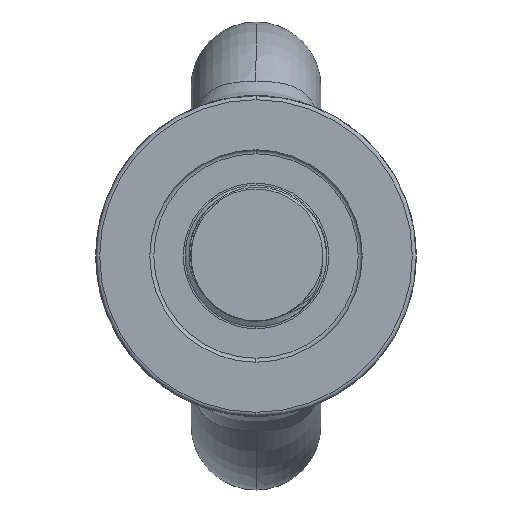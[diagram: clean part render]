
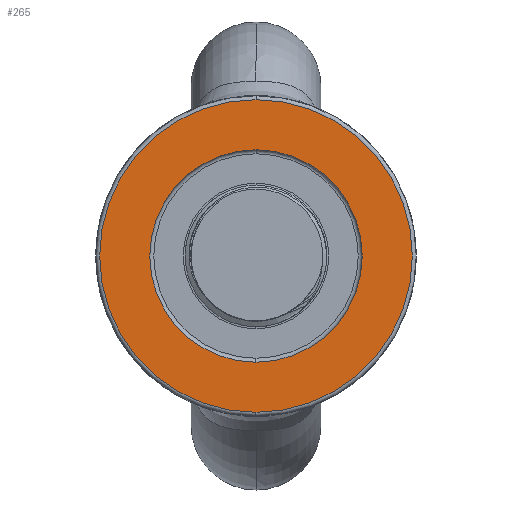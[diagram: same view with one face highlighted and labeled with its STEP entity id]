
A CAD part, left-side view. The second image highlights one B-rep face of the part: STEP entity #265.
In plain terms, the highlighted planar face has unit normal (-1, 0, 0).
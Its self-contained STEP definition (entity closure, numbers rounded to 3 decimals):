
#99 = CIRCLE ( 'NONE', #16171, 54. ) ;
#120 = CIRCLE ( 'NONE', #14871, 54. ) ;
#124 = CIRCLE ( 'NONE', #14870, 79.5 ) ;
#212 = CIRCLE ( 'NONE', #14889, 79.5 ) ;
#265 = ADVANCED_FACE ( 'NONE', ( #16588, #16582 ), #15269, .F. ) ;
#12722 = CARTESIAN_POINT ( 'NONE',  ( 0., 0., 0. ) ) ;
#12723 = DIRECTION ( 'NONE',  ( -1., 0., 0. ) ) ;
#12724 = DIRECTION ( 'NONE',  ( 0., 0., 1. ) ) ;
#13447 = CARTESIAN_POINT ( 'NONE',  ( 0., 0., 0. ) ) ;
#13448 = DIRECTION ( 'NONE',  ( -1., 0., 0. ) ) ;
#13449 = DIRECTION ( 'NONE',  ( 0., 0., 1. ) ) ;
#13450 = CARTESIAN_POINT ( 'NONE',  ( 0., 0., 0. ) ) ;
#13451 = DIRECTION ( 'NONE',  ( -1., 0., 0. ) ) ;
#13452 = DIRECTION ( 'NONE',  ( 0., 0., 1. ) ) ;
#13664 = CARTESIAN_POINT ( 'NONE',  ( 0., 0., -54. ) ) ;
#13778 = CARTESIAN_POINT ( 'NONE',  ( 0., 0., 54. ) ) ;
#13792 = CARTESIAN_POINT ( 'NONE',  ( 0., 0., -79.5 ) ) ;
#13845 = CARTESIAN_POINT ( 'NONE',  ( 0., 0., 79.5 ) ) ;
#14654 = CARTESIAN_POINT ( 'NONE',  ( 0., 0., 0. ) ) ;
#14655 = DIRECTION ( 'NONE',  ( -1., 0., 0. ) ) ;
#14656 = DIRECTION ( 'NONE',  ( 0., 0., 1. ) ) ;
#14870 = AXIS2_PLACEMENT_3D ( 'NONE', #13447, #13448, #13449 ) ;
#14871 = AXIS2_PLACEMENT_3D ( 'NONE', #13450, #13451, #13452 ) ;
#14889 = AXIS2_PLACEMENT_3D ( 'NONE', #14654, #14655, #14656 ) ;
#15123 = EDGE_LOOP ( 'NONE', ( #16223, #16227 ) ) ;
#15265 = DIRECTION ( 'NONE',  ( 0., 0., -1. ) ) ;
#15269 = PLANE ( 'NONE',  #16137 ) ;
#15273 = DIRECTION ( 'NONE',  ( 1., 0., 0. ) ) ;
#15394 = CARTESIAN_POINT ( 'NONE',  ( 0., 0., -79.5 ) ) ;
#15452 = EDGE_CURVE ( 'NONE', #16388, #16443, #99, .T. ) ;
#16080 = EDGE_CURVE ( 'NONE', #16457, #16510, #124, .T. ) ;
#16081 = EDGE_CURVE ( 'NONE', #16443, #16388, #120, .T. ) ;
#16137 = AXIS2_PLACEMENT_3D ( 'NONE', #15394, #15273, #15265 ) ;
#16171 = AXIS2_PLACEMENT_3D ( 'NONE', #12722, #12723, #12724 ) ;
#16189 = ORIENTED_EDGE ( 'NONE', *, *, #15452, .F. ) ;
#16223 = ORIENTED_EDGE ( 'NONE', *, *, #17012, .T. ) ;
#16227 = ORIENTED_EDGE ( 'NONE', *, *, #16080, .T. ) ;
#16232 = ORIENTED_EDGE ( 'NONE', *, *, #16081, .F. ) ;
#16307 = EDGE_LOOP ( 'NONE', ( #16232, #16189 ) ) ;
#16388 = VERTEX_POINT ( 'NONE', #13664 ) ;
#16443 = VERTEX_POINT ( 'NONE', #13778 ) ;
#16457 = VERTEX_POINT ( 'NONE', #13792 ) ;
#16510 = VERTEX_POINT ( 'NONE', #13845 ) ;
#16582 = FACE_OUTER_BOUND ( 'NONE', #15123, .T. ) ;
#16588 = FACE_BOUND ( 'NONE', #16307, .T. ) ;
#17012 = EDGE_CURVE ( 'NONE', #16510, #16457, #212, .T. ) ;
